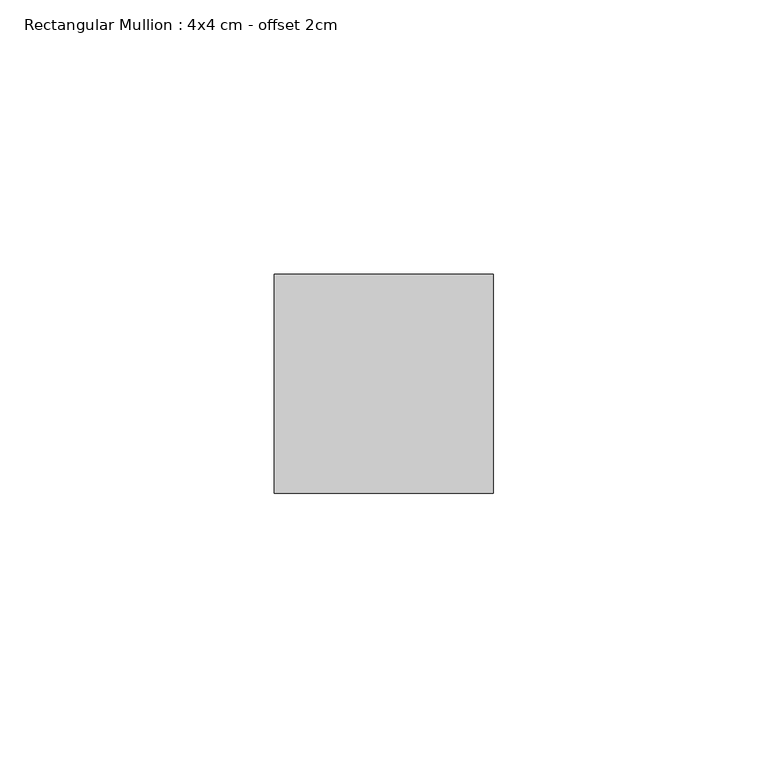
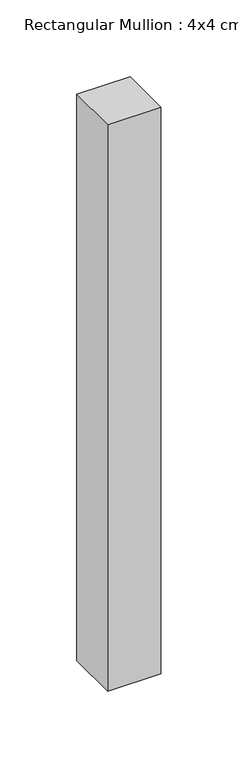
"""IFC4 building model written with IfcOpenShell, lengths in millimetres: member geometry, Rectangular Mullion : 4x4 cm - offset 2cm."""

from ifc_helpers import new_model, si_unit, frame, origin, place, context, project, spatial, polyline, outline, extrude, source, transform, mapped, element, save


def rectangular_mullion_4x4_cm_offset_2cm_d0d282c4(model_context):
    return source(origin(), model_context, "Body", "SweptSolid", [
        extrude(outline(polyline([(0.0, 40.0), (0.0, 0.0), (-40.0, 0.0), (-40.0, 40.0), (0.0, 40.0)])), frame((0.0, 0.0, -449.9999997), z_axis=(0.0, 0.0, 1.0), x_axis=(1.0, 0.0, 0.0)), (0.0, 0.0, 1.0), 449.9999997),
    ])


if __name__ == "__main__":
    model = new_model("IFC4")
    model_context = context("Model", 3, world=origin())
    ifc_project = project(units=[si_unit("LENGTHUNIT", "METRE", prefix="MILLI")], contexts=[model_context])
    site = spatial("IfcSite", under=ifc_project)
    building = spatial("IfcBuilding", under=site)
    placement = place(None, origin())
    rectangular_mullion_4x4_cm_offset_2cm_shape = rectangular_mullion_4x4_cm_offset_2cm_d0d282c4(model_context)
    element("IfcMember", 1, ObjectType="Rectangular Mullion : 4x4 cm - offset 2cm", at=placement, inside=building, context=model_context, shape_type="MappedRepresentation", body=[
        mapped(rectangular_mullion_4x4_cm_offset_2cm_shape, transform((0.0, 0.0, 0.0), x_axis=(1.0, 0.0, 0.0), y_axis=(0.0, 1.0, 0.0), z_axis=(0.0, 0.0, 1.0))),
    ])
    save(model, "model.ifc")
